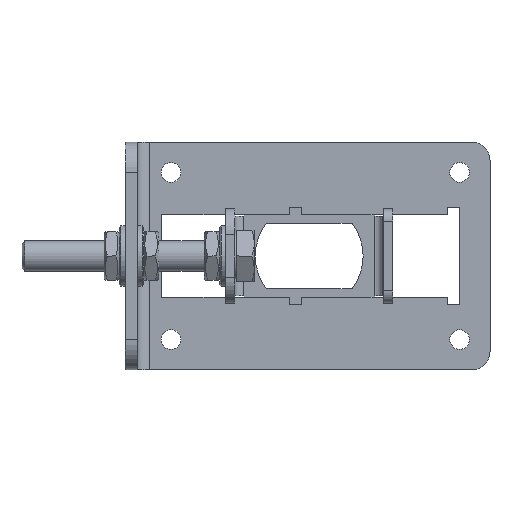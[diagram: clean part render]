
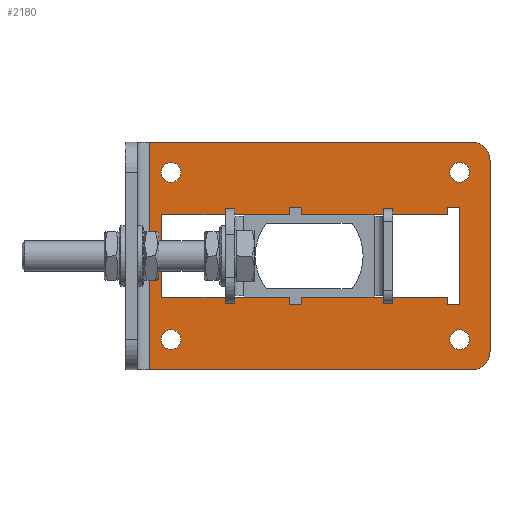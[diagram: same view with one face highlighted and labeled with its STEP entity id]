
A CAD part, front view. The second image highlights one B-rep face of the part: STEP entity #2180.
In plain terms, the highlighted planar face has unit normal (0, -1, 0) as drawn and (0, 1, 0) by its records, which use the part's own axes.
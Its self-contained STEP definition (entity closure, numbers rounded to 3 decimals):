
#133=PLANE('',#2338);
#208=LINE('',#3193,#414);
#230=LINE('',#3242,#436);
#238=LINE('',#3263,#444);
#241=LINE('',#3268,#447);
#243=LINE('',#3272,#449);
#245=LINE('',#3276,#451);
#247=LINE('',#3280,#453);
#249=LINE('',#3284,#455);
#251=LINE('',#3288,#457);
#253=LINE('',#3292,#459);
#255=LINE('',#3296,#461);
#257=LINE('',#3300,#463);
#259=LINE('',#3304,#465);
#261=LINE('',#3308,#467);
#263=LINE('',#3312,#469);
#265=LINE('',#3316,#471);
#267=LINE('',#3320,#473);
#269=LINE('',#3323,#475);
#272=LINE('',#3336,#478);
#273=LINE('',#3338,#479);
#414=VECTOR('',#2559,106.);
#436=VECTOR('',#2591,106.);
#444=VECTOR('',#2613,42.);
#447=VECTOR('',#2618,2.5);
#449=VECTOR('',#2622,4.);
#451=VECTOR('',#2626,2.5);
#453=VECTOR('',#2630,48.);
#455=VECTOR('',#2634,2.5);
#457=VECTOR('',#2638,4.);
#459=VECTOR('',#2642,32.);
#461=VECTOR('',#2646,4.);
#463=VECTOR('',#2650,2.5);
#465=VECTOR('',#2654,48.);
#467=VECTOR('',#2658,2.5);
#469=VECTOR('',#2662,4.);
#471=VECTOR('',#2666,2.5);
#473=VECTOR('',#2670,42.);
#475=VECTOR('',#2674,27.);
#478=VECTOR('',#2697,75.);
#479=VECTOR('',#2700,63.);
#613=FACE_BOUND('',#823,.T.);
#614=FACE_BOUND('',#824,.T.);
#615=FACE_BOUND('',#825,.T.);
#616=FACE_BOUND('',#826,.T.);
#617=FACE_BOUND('',#827,.T.);
#683=FACE_OUTER_BOUND('',#822,.T.);
#822=EDGE_LOOP('',(#1700,#1701,#1702,#1703,#1704,#1705));
#823=EDGE_LOOP('',(#1706));
#824=EDGE_LOOP('',(#1707));
#825=EDGE_LOOP('',(#1708));
#826=EDGE_LOOP('',(#1709));
#827=EDGE_LOOP('',(#1710,#1711,#1712,#1713,#1714,#1715,#1716,#1717,#1718,
#1719,#1720,#1721,#1722,#1723,#1724,#1725));
#939=CIRCLE('',#2275,3.25);
#941=CIRCLE('',#2278,3.25);
#943=CIRCLE('',#2281,3.25);
#945=CIRCLE('',#2284,3.25);
#952=CIRCLE('',#2297,6.);
#955=CIRCLE('',#2303,6.);
#1009=VERTEX_POINT('',#3121);
#1011=VERTEX_POINT('',#3126);
#1013=VERTEX_POINT('',#3131);
#1015=VERTEX_POINT('',#3136);
#1032=VERTEX_POINT('',#3180);
#1033=VERTEX_POINT('',#3181);
#1037=VERTEX_POINT('',#3191);
#1057=VERTEX_POINT('',#3235);
#1058=VERTEX_POINT('',#3236);
#1059=VERTEX_POINT('',#3241);
#1064=VERTEX_POINT('',#3261);
#1065=VERTEX_POINT('',#3262);
#1066=VERTEX_POINT('',#3267);
#1067=VERTEX_POINT('',#3271);
#1068=VERTEX_POINT('',#3275);
#1069=VERTEX_POINT('',#3279);
#1070=VERTEX_POINT('',#3283);
#1071=VERTEX_POINT('',#3287);
#1072=VERTEX_POINT('',#3291);
#1073=VERTEX_POINT('',#3295);
#1074=VERTEX_POINT('',#3299);
#1075=VERTEX_POINT('',#3303);
#1076=VERTEX_POINT('',#3307);
#1077=VERTEX_POINT('',#3311);
#1078=VERTEX_POINT('',#3315);
#1079=VERTEX_POINT('',#3319);
#1211=EDGE_CURVE('',#1009,#1009,#939,.T.);
#1213=EDGE_CURVE('',#1011,#1011,#941,.T.);
#1215=EDGE_CURVE('',#1013,#1013,#943,.T.);
#1217=EDGE_CURVE('',#1015,#1015,#945,.T.);
#1238=EDGE_CURVE('',#1032,#1033,#952,.T.);
#1244=EDGE_CURVE('',#1037,#1032,#208,.T.);
#1265=EDGE_CURVE('',#1057,#1058,#955,.T.);
#1268=EDGE_CURVE('',#1058,#1059,#230,.T.);
#1278=EDGE_CURVE('',#1064,#1065,#238,.T.);
#1281=EDGE_CURVE('',#1065,#1066,#241,.T.);
#1283=EDGE_CURVE('',#1066,#1067,#243,.T.);
#1285=EDGE_CURVE('',#1067,#1068,#245,.T.);
#1287=EDGE_CURVE('',#1068,#1069,#247,.T.);
#1289=EDGE_CURVE('',#1069,#1070,#249,.T.);
#1291=EDGE_CURVE('',#1070,#1071,#251,.T.);
#1293=EDGE_CURVE('',#1071,#1072,#253,.T.);
#1295=EDGE_CURVE('',#1072,#1073,#255,.T.);
#1297=EDGE_CURVE('',#1073,#1074,#257,.T.);
#1299=EDGE_CURVE('',#1074,#1075,#259,.T.);
#1301=EDGE_CURVE('',#1075,#1076,#261,.T.);
#1303=EDGE_CURVE('',#1076,#1077,#263,.T.);
#1305=EDGE_CURVE('',#1077,#1078,#265,.T.);
#1307=EDGE_CURVE('',#1078,#1079,#267,.T.);
#1309=EDGE_CURVE('',#1079,#1064,#269,.T.);
#1316=EDGE_CURVE('',#1037,#1059,#272,.T.);
#1317=EDGE_CURVE('',#1033,#1057,#273,.T.);
#1700=ORIENTED_EDGE('',*,*,#1238,.F.);
#1701=ORIENTED_EDGE('',*,*,#1244,.F.);
#1702=ORIENTED_EDGE('',*,*,#1316,.T.);
#1703=ORIENTED_EDGE('',*,*,#1268,.F.);
#1704=ORIENTED_EDGE('',*,*,#1265,.F.);
#1705=ORIENTED_EDGE('',*,*,#1317,.F.);
#1706=ORIENTED_EDGE('',*,*,#1211,.T.);
#1707=ORIENTED_EDGE('',*,*,#1213,.T.);
#1708=ORIENTED_EDGE('',*,*,#1215,.T.);
#1709=ORIENTED_EDGE('',*,*,#1217,.T.);
#1710=ORIENTED_EDGE('',*,*,#1295,.T.);
#1711=ORIENTED_EDGE('',*,*,#1297,.T.);
#1712=ORIENTED_EDGE('',*,*,#1299,.T.);
#1713=ORIENTED_EDGE('',*,*,#1301,.T.);
#1714=ORIENTED_EDGE('',*,*,#1303,.T.);
#1715=ORIENTED_EDGE('',*,*,#1305,.T.);
#1716=ORIENTED_EDGE('',*,*,#1307,.T.);
#1717=ORIENTED_EDGE('',*,*,#1309,.T.);
#1718=ORIENTED_EDGE('',*,*,#1278,.T.);
#1719=ORIENTED_EDGE('',*,*,#1281,.T.);
#1720=ORIENTED_EDGE('',*,*,#1283,.T.);
#1721=ORIENTED_EDGE('',*,*,#1285,.T.);
#1722=ORIENTED_EDGE('',*,*,#1287,.T.);
#1723=ORIENTED_EDGE('',*,*,#1289,.T.);
#1724=ORIENTED_EDGE('',*,*,#1291,.T.);
#1725=ORIENTED_EDGE('',*,*,#1293,.T.);
#2180=ADVANCED_FACE('',(#683,#613,#614,#615,#616,#617),#133,.T.);
#2275=AXIS2_PLACEMENT_3D('',#3122,#2491,#2492);
#2278=AXIS2_PLACEMENT_3D('',#3127,#2497,#2498);
#2281=AXIS2_PLACEMENT_3D('',#3132,#2503,#2504);
#2284=AXIS2_PLACEMENT_3D('',#3137,#2509,#2510);
#2297=AXIS2_PLACEMENT_3D('',#3182,#2549,#2550);
#2303=AXIS2_PLACEMENT_3D('',#3237,#2585,#2586);
#2338=AXIS2_PLACEMENT_3D('',#3339,#2701,#2702);
#2491=DIRECTION('center_axis',(0.,-1.,0.));
#2492=DIRECTION('ref_axis',(1.,0.,0.));
#2497=DIRECTION('center_axis',(0.,-1.,0.));
#2498=DIRECTION('ref_axis',(1.,0.,0.));
#2503=DIRECTION('center_axis',(0.,-1.,0.));
#2504=DIRECTION('ref_axis',(1.,0.,0.));
#2509=DIRECTION('center_axis',(0.,-1.,0.));
#2510=DIRECTION('ref_axis',(1.,0.,0.));
#2549=DIRECTION('center_axis',(0.,-1.,0.));
#2550=DIRECTION('ref_axis',(0.707,0.,-0.707));
#2559=DIRECTION('',(1.,0.,0.));
#2585=DIRECTION('center_axis',(0.,-1.,0.));
#2586=DIRECTION('ref_axis',(0.707,0.,0.707));
#2591=DIRECTION('',(-1.,0.,0.));
#2613=DIRECTION('',(1.,0.,0.));
#2618=DIRECTION('',(0.,0.,-1.));
#2622=DIRECTION('',(1.,0.,0.));
#2626=DIRECTION('',(0.,0.,1.));
#2630=DIRECTION('',(1.,0.,0.));
#2634=DIRECTION('',(0.,0.,-1.));
#2638=DIRECTION('',(1.,0.,0.));
#2642=DIRECTION('',(0.,0.,1.));
#2646=DIRECTION('',(-1.,0.,0.));
#2650=DIRECTION('',(0.,0.,-1.));
#2654=DIRECTION('',(-1.,0.,0.));
#2658=DIRECTION('',(0.,0.,1.));
#2662=DIRECTION('',(-1.,0.,0.));
#2666=DIRECTION('',(0.,0.,-1.));
#2670=DIRECTION('',(-1.,0.,0.));
#2674=DIRECTION('',(0.,0.,-1.));
#2697=DIRECTION('',(0.,0.,1.));
#2700=DIRECTION('',(0.,0.,1.));
#2701=DIRECTION('center_axis',(0.,1.,0.));
#2702=DIRECTION('ref_axis',(0.,0.,1.));
#3121=CARTESIAN_POINT('',(-41.75,4.,27.5));
#3122=CARTESIAN_POINT('Origin',(-45.,4.,27.5));
#3126=CARTESIAN_POINT('',(-41.75,4.,-27.5));
#3127=CARTESIAN_POINT('Origin',(-45.,4.,-27.5));
#3131=CARTESIAN_POINT('',(53.25,4.,27.5));
#3132=CARTESIAN_POINT('Origin',(50.,4.,27.5));
#3136=CARTESIAN_POINT('',(53.25,4.,-27.5));
#3137=CARTESIAN_POINT('Origin',(50.,4.,-27.5));
#3180=CARTESIAN_POINT('',(54.,4.,-37.5));
#3181=CARTESIAN_POINT('',(60.,4.,-31.5));
#3182=CARTESIAN_POINT('Origin',(54.,4.,-31.5));
#3191=CARTESIAN_POINT('',(-52.,4.,-37.5));
#3193=CARTESIAN_POINT('',(-60.,4.,-37.5));
#3235=CARTESIAN_POINT('',(60.,4.,31.5));
#3236=CARTESIAN_POINT('',(54.,4.,37.5));
#3237=CARTESIAN_POINT('Origin',(54.,4.,31.5));
#3241=CARTESIAN_POINT('',(-52.,4.,37.5));
#3242=CARTESIAN_POINT('',(60.,4.,37.5));
#3261=CARTESIAN_POINT('',(-48.,4.,-13.5));
#3262=CARTESIAN_POINT('',(-6.,4.,-13.5));
#3263=CARTESIAN_POINT('',(-3.,4.,-13.5));
#3267=CARTESIAN_POINT('',(-6.,4.,-16.));
#3268=CARTESIAN_POINT('',(-6.,4.,-8.));
#3271=CARTESIAN_POINT('',(-2.,4.,-16.));
#3272=CARTESIAN_POINT('',(-1.,4.,-16.));
#3275=CARTESIAN_POINT('',(-2.,4.,-13.5));
#3276=CARTESIAN_POINT('',(-2.,4.,-6.75));
#3279=CARTESIAN_POINT('',(46.,4.,-13.5));
#3280=CARTESIAN_POINT('',(23.,4.,-13.5));
#3283=CARTESIAN_POINT('',(46.,4.,-16.));
#3284=CARTESIAN_POINT('',(46.,4.,-8.));
#3287=CARTESIAN_POINT('',(50.,4.,-16.));
#3288=CARTESIAN_POINT('',(25.,4.,-16.));
#3291=CARTESIAN_POINT('',(50.,4.,16.));
#3292=CARTESIAN_POINT('',(50.,4.,8.));
#3295=CARTESIAN_POINT('',(46.,4.,16.));
#3296=CARTESIAN_POINT('',(23.,4.,16.));
#3299=CARTESIAN_POINT('',(46.,4.,13.5));
#3300=CARTESIAN_POINT('',(46.,4.,6.75));
#3303=CARTESIAN_POINT('',(-2.,4.,13.5));
#3304=CARTESIAN_POINT('',(-1.,4.,13.5));
#3307=CARTESIAN_POINT('',(-2.,4.,16.));
#3308=CARTESIAN_POINT('',(-2.,4.,8.));
#3311=CARTESIAN_POINT('',(-6.,4.,16.));
#3312=CARTESIAN_POINT('',(-3.,4.,16.));
#3315=CARTESIAN_POINT('',(-6.,4.,13.5));
#3316=CARTESIAN_POINT('',(-6.,4.,6.75));
#3319=CARTESIAN_POINT('',(-48.,4.,13.5));
#3320=CARTESIAN_POINT('',(-24.,4.,13.5));
#3323=CARTESIAN_POINT('',(-48.,4.,-6.75));
#3336=CARTESIAN_POINT('',(-52.,4.,18.75));
#3338=CARTESIAN_POINT('',(60.,4.,-37.5));
#3339=CARTESIAN_POINT('Origin',(0.,4.,0.));
